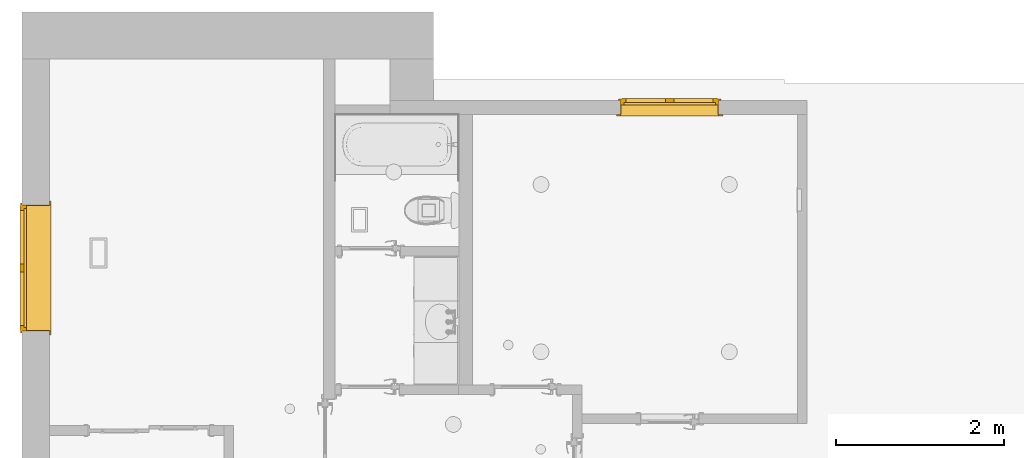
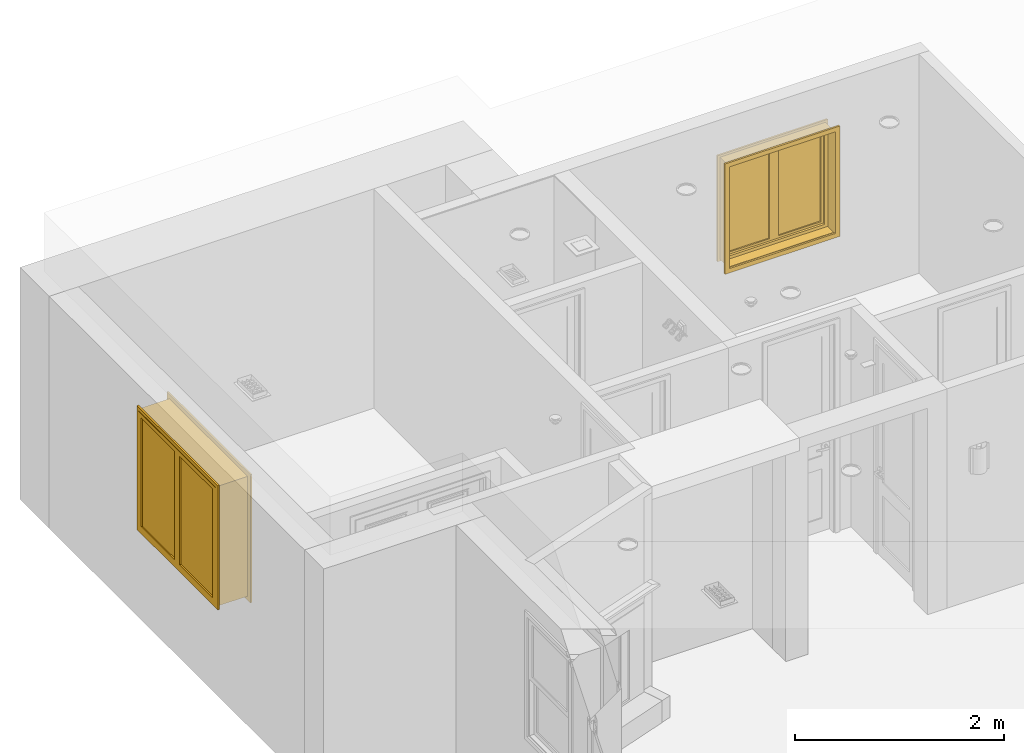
# One storey, part 13 of 24: 2 windows.
"""IFC2X3 building model written with IfcOpenShell, lengths in inches."""

from ifc_helpers import new_model, entity, si_unit, converted_unit, derived_unit, money_unit, direction, frame, origin_with_axes, place, context, subcontext, project, spatial, open_shell, faceted_brep, surface_model, type_object, element, save


model = new_model("IFC2X3")

# Units and contexts
model_context = context("Model", 3, precision=0.000393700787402, world=origin_with_axes(), true_north=direction((0.0, 1.0)))
body_context = subcontext(model_context, "Body", "Model", "MODEL_VIEW")
ifc_project = project(units=[converted_unit("LENGTHUNIT", "INCH", entity("IfcPositiveLengthMeasure", 0.0254), si_unit("LENGTHUNIT", "METRE"), dimensions=[1, 0, 0, 0, 0, 0, 0]), converted_unit("AREAUNIT", "SQUARE_FOOT", entity("IfcPositiveLengthMeasure", 0.09290304), si_unit("AREAUNIT", "SQUARE_METRE"), dimensions=[2, 0, 0, 0, 0, 0, 0]), si_unit("PLANEANGLEUNIT", "RADIAN"), si_unit("SOLIDANGLEUNIT", "STERADIAN"), money_unit("USD"), converted_unit("TIMEUNIT", "Year", entity("IfcTimeMeasure", 31556926.0), si_unit("TIMEUNIT", "SECOND"), dimensions=[0, 0, 1, 0, 0, 0, 0]), si_unit("MASSUNIT", "GRAM", prefix="KILO"), si_unit("THERMODYNAMICTEMPERATUREUNIT", "DEGREE_CELSIUS"), si_unit("LUMINOUSINTENSITYUNIT", "LUMEN"), si_unit("ENERGYUNIT", "JOULE", prefix="MEGA"), derived_unit("THERMALCONDUCTANCEUNIT", [(si_unit("POWERUNIT", "WATT"), 1), (si_unit("LENGTHUNIT", "METRE"), -1), (si_unit("THERMODYNAMICTEMPERATUREUNIT", "KELVIN"), -1)]), derived_unit("SPECIFICHEATCAPACITYUNIT", [(si_unit("ENERGYUNIT", "JOULE"), 1), (si_unit("MASSUNIT", "GRAM", prefix="KILO"), -1), (si_unit("THERMODYNAMICTEMPERATUREUNIT", "KELVIN"), -1)]), derived_unit("MASSDENSITYUNIT", [(si_unit("MASSUNIT", "GRAM", prefix="KILO"), 1), (si_unit("VOLUMEUNIT", "CUBIC_METRE"), -1)])], contexts=[model_context])

# Site, building, storey
site_placement = place(None, origin_with_axes())
site = spatial("IfcSite", under=ifc_project, at=site_placement, Name="Site", CompositionType="ELEMENT")
building_placement = place(site_placement, origin_with_axes())
building = spatial("IfcBuilding", under=site, at=building_placement, Name="Building", CompositionType="ELEMENT")
storey_placement = place(building_placement, origin_with_axes())
storey = spatial("IfcBuildingStorey", under=building, at=storey_placement, Name="First Floor", CompositionType="ELEMENT", Elevation=0.0)

# Windows
window_style = type_object("IfcWindowStyle", Name="Double Sash Window 25", ConstructionType="NOTDEFINED", OperationType="DOUBLE_PANEL_VERTICAL", ParameterTakesPrecedence=False, Sizeable=False)
window_1_placement = place(storey_placement, frame((232.930392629, 464.885718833, 35.8267716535), z_axis=(0.0, 0.0, 1.0), x_axis=(0.0, 1.0, 0.0)))
element("IfcWindow", 1, at=window_1_placement, inside=storey, type_object=window_style, Name="W-05", OverallHeight=55.1181, OverallWidth=59.0551, context=body_context, shape_type="SurfaceModel", body=[
    faceted_brep([(59.0551181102, 10.8267716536, 0.0), (59.0551181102, 0.0, 0.0), (0.0, 1.62844366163e-10, 0.0), (0.0, 10.8267716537, 0.0), (59.0551181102, 10.8267716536, 55.1181102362), (59.0551181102, 0.0, 55.1181102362), (0.0, 1.62844366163e-10, 55.1181102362), (58.8582677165, 0.0, 0.196850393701), (0.196850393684, 1.62564624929e-10, 0.196850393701), (0.196850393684, 1.62564624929e-10, 54.9212598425), (58.8582677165, 0.0, 54.9212598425), (0.0, 10.8267716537, 55.1181102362), (58.8582677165, 10.8267716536, 0.196850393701), (58.8582677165, 10.8267716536, 54.9212598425), (0.196850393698, 10.8267716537, 54.9212598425), (0.196850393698, 10.8267716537, 0.196850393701)], [[[0, 1, 2, 3]], [[4, 5, 1, 0]], [[1, 5, 6, 2], [7, 8, 9, 10]], [[3, 2, 6, 11]], [[0, 3, 11, 4], [12, 13, 14, 15]], [[11, 6, 5, 4]], [[15, 8, 7, 12]], [[14, 9, 8, 15]], [[13, 10, 9, 14]], [[12, 7, 10, 13]]]),
    faceted_brep([(61.0236220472, -0.787401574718, -1.96850393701), (59.0551181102, -0.787401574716, 0.0), (59.0551181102, 0.0, 0.0), (61.0236220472, 0.0, -1.96850393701), (61.0236220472, -0.787401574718, 57.0866141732), (59.0551181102, -0.787401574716, 55.1181102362), (59.0551181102, 0.0, 55.1181102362), (61.0236220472, 0.0, 57.0866141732)], [[[0, 1, 2, 3]], [[0, 4, 5, 1]], [[1, 5, 6, 2]], [[3, 2, 6, 7]], [[4, 0, 3, 7]], [[5, 4, 7, 6]]]),
    faceted_brep([(-1.96850393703, -0.787401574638, 57.0866141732), (0.0, -0.78740157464, 55.1181102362), (0.0, 1.62844366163e-10, 55.1181102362), (-1.96850393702, 1.6532706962e-10, 57.0866141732), (-1.96850393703, -0.787401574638, -1.96850393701), (0.0, -0.78740157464, 0.0), (0.0, 1.62844366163e-10, 0.0), (-1.96850393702, 1.6532706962e-10, -1.96850393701)], [[[0, 1, 2, 3]], [[0, 4, 5, 1]], [[1, 5, 6, 2]], [[3, 2, 6, 7]], [[4, 0, 3, 7]], [[5, 4, 7, 6]]]),
    faceted_brep([(-1.96850393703, -0.787401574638, -1.96850393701), (0.0, -0.78740157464, 0.0), (0.0, 1.62844366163e-10, 0.0), (-1.96850393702, 1.6532706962e-10, -1.96850393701), (61.0236220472, -0.787401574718, -1.96850393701), (59.0551181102, -0.787401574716, 0.0), (59.0551181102, 0.0, 0.0), (61.0236220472, 0.0, -1.96850393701)], [[[0, 1, 2, 3]], [[0, 4, 5, 1]], [[1, 5, 6, 2]], [[3, 2, 6, 7]], [[4, 0, 3, 7]], [[5, 4, 7, 6]]]),
    faceted_brep([(61.0236220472, -0.787401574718, 57.0866141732), (59.0551181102, -0.787401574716, 55.1181102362), (59.0551181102, 0.0, 55.1181102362), (61.0236220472, 0.0, 57.0866141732), (-1.96850393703, -0.787401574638, 57.0866141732), (0.0, -0.78740157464, 55.1181102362), (0.0, 1.62844366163e-10, 55.1181102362), (-1.96850393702, 1.6532706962e-10, 57.0866141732)], [[[0, 1, 2, 3]], [[0, 4, 5, 1]], [[1, 5, 6, 2]], [[3, 2, 6, 7]], [[4, 0, 3, 7]], [[5, 4, 7, 6]]]),
    faceted_brep([(60.0393700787, 13.5826771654, -0.984251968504), (60.0393700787, 12.7952755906, -0.984251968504), (58.0708661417, 12.7952755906, 0.984251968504), (58.0708661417, 13.5826771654, 0.984251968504), (60.0393700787, 13.5826771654, 56.1023622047), (60.0393700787, 12.7952755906, 56.1023622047), (58.0708661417, 12.7952755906, 54.1338582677), (58.0708661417, 13.5826771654, 54.1338582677)], [[[0, 1, 2, 3]], [[4, 5, 1, 0]], [[1, 5, 6, 2]], [[3, 2, 6, 7]], [[0, 3, 7, 4]], [[7, 6, 5, 4]]]),
    faceted_brep([(-0.984251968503, 13.5826771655, 56.1023622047), (-0.984251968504, 12.7952755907, 56.1023622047), (0.984251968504, 12.7952755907, 54.1338582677), (0.984251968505, 13.5826771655, 54.1338582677), (-0.984251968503, 13.5826771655, -0.984251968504), (-0.984251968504, 12.7952755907, -0.984251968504), (0.984251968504, 12.7952755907, 0.984251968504), (0.984251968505, 13.5826771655, 0.984251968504)], [[[0, 1, 2, 3]], [[4, 5, 1, 0]], [[1, 5, 6, 2]], [[3, 2, 6, 7]], [[0, 3, 7, 4]], [[7, 6, 5, 4]]]),
    faceted_brep([(-0.984251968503, 13.5826771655, -0.984251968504), (-0.984251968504, 12.7952755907, -0.984251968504), (0.984251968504, 12.7952755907, 0.984251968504), (0.984251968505, 13.5826771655, 0.984251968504), (60.0393700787, 13.5826771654, -0.984251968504), (60.0393700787, 12.7952755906, -0.984251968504), (58.0708661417, 12.7952755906, 0.984251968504), (58.0708661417, 13.5826771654, 0.984251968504)], [[[0, 1, 2, 3]], [[4, 5, 1, 0]], [[1, 5, 6, 2]], [[3, 2, 6, 7]], [[0, 3, 7, 4]], [[7, 6, 5, 4]]]),
    faceted_brep([(60.0393700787, 13.5826771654, 56.1023622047), (60.0393700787, 12.7952755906, 56.1023622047), (58.0708661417, 12.7952755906, 54.1338582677), (58.0708661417, 13.5826771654, 54.1338582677), (-0.984251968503, 13.5826771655, 56.1023622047), (-0.984251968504, 12.7952755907, 56.1023622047), (0.984251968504, 12.7952755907, 54.1338582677), (0.984251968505, 13.5826771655, 54.1338582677)], [[[0, 1, 2, 3]], [[4, 5, 1, 0]], [[1, 5, 6, 2]], [[3, 2, 6, 7]], [[0, 3, 7, 4]], [[7, 6, 5, 4]]]),
    faceted_brep([(58.4645669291, 12.7952755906, 53.5433070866), (58.4645669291, 11.8110236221, 53.5433070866), (57.4803149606, 11.8110236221, 53.5433070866), (57.4803149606, 10.8267716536, 53.5433070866), (59.0551181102, 10.8267716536, 53.5433070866), (59.0551181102, 12.7952755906, 53.5433070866), (58.4645669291, 12.7952755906, 1.57480314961), (58.4645669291, 11.8110236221, 1.57480314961), (57.4803149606, 11.8110236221, 1.57480314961), (57.4803149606, 10.8267716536, 1.57480314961), (59.0551181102, 10.8267716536, 1.57480314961), (59.0551181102, 12.7952755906, 1.57480314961)], [[[0, 1, 2, 3, 4, 5]], [[1, 0, 6, 7]], [[8, 2, 1, 7]], [[2, 8, 9, 3]], [[4, 3, 9, 10]], [[5, 4, 10, 11]], [[6, 0, 5, 11]], [[7, 6, 11, 10, 9, 8]]]),
    faceted_brep([(1.57480314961, 11.8110236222, 53.5433070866), (0.590551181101, 11.8110236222, 53.5433070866), (0.590551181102, 12.7952755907, 53.5433070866), (0.0, 12.7952755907, 53.5433070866), (0.0, 10.8267716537, 53.5433070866), (1.5748031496, 10.8267716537, 53.5433070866), (1.57480314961, 11.8110236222, 1.57480314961), (0.590551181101, 11.8110236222, 1.57480314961), (0.590551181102, 12.7952755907, 1.57480314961), (0.0, 12.7952755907, 1.57480314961), (0.0, 10.8267716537, 1.57480314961), (1.5748031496, 10.8267716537, 1.57480314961)], [[[0, 1, 2, 3, 4, 5]], [[1, 0, 6, 7]], [[8, 2, 1, 7]], [[2, 8, 9, 3]], [[9, 10, 4, 3]], [[10, 11, 5, 4]], [[6, 0, 5, 11]], [[7, 6, 11, 10, 9, 8]]]),
    faceted_brep([(1.57480314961, 11.8110236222, 1.57480314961), (0.590551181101, 11.8110236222, 1.57480314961), (0.590551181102, 12.7952755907, 1.57480314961), (0.0, 12.7952755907, 1.57480314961), (0.0, 10.8267716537, 1.57480314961), (1.5748031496, 10.8267716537, 1.57480314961), (57.4803149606, 11.8110236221, 1.57480314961), (58.4645669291, 11.8110236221, 1.57480314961), (58.4645669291, 11.8110236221, 0.590551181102), (0.590551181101, 11.8110236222, 0.590551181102), (0.590551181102, 12.7952755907, 0.590551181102), (58.4645669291, 12.7952755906, 0.590551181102), (58.4645669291, 12.7952755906, 1.57480314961), (59.0551181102, 12.7952755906, 1.57480314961), (59.0551181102, 12.7952755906, 0.0), (0.0, 12.7952755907, 0.0), (0.0, 10.8267716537, 0.0), (59.0551181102, 10.8267716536, 1.57480314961), (57.4803149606, 10.8267716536, 1.57480314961), (59.0551181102, 10.8267716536, 0.0)], [[[0, 1, 2, 3, 4, 5]], [[1, 0, 6, 7, 8, 9]], [[10, 2, 1, 9]], [[11, 12, 13, 14, 15, 3, 2, 10]], [[15, 16, 4, 3]], [[17, 18, 5, 4, 16, 19]], [[6, 0, 5, 18]], [[7, 6, 18, 17, 13, 12]], [[7, 12, 11, 8]], [[11, 10, 9, 8]], [[13, 17, 19, 14]], [[14, 19, 16, 15]]]),
    faceted_brep([(58.4645669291, 12.7952755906, 53.5433070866), (58.4645669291, 12.7952755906, 54.5275590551), (0.590551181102, 12.7952755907, 54.5275590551), (0.590551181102, 12.7952755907, 53.5433070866), (0.0, 12.7952755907, 53.5433070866), (0.0, 12.7952755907, 55.1181102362), (59.0551181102, 12.7952755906, 55.1181102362), (59.0551181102, 12.7952755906, 53.5433070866), (58.4645669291, 11.8110236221, 53.5433070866), (58.4645669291, 11.8110236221, 54.5275590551), (0.590551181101, 11.8110236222, 54.5275590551), (0.590551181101, 11.8110236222, 53.5433070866), (1.57480314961, 11.8110236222, 53.5433070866), (1.5748031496, 10.8267716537, 53.5433070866), (0.0, 10.8267716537, 53.5433070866), (0.0, 10.8267716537, 55.1181102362), (59.0551181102, 10.8267716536, 55.1181102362), (59.0551181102, 10.8267716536, 53.5433070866), (57.4803149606, 10.8267716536, 53.5433070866), (57.4803149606, 11.8110236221, 53.5433070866)], [[[0, 1, 2, 3, 4, 5, 6, 7]], [[1, 0, 8, 9]], [[2, 1, 9, 10]], [[3, 2, 10, 11]], [[11, 12, 13, 14, 4, 3]], [[4, 14, 15, 5]], [[5, 15, 16, 6]], [[6, 16, 17, 7]], [[8, 0, 7, 17, 18, 19]], [[12, 11, 10, 9, 8, 19]], [[12, 19, 18, 13]], [[14, 13, 18, 17, 16, 15]]]),
    faceted_brep([(56.4960629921, 11.8110236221, 52.5590551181), (58.4645669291, 11.8110236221, 52.5590551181), (58.4645669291, 13.7795275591, 52.5590551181), (56.4960629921, 13.7795275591, 52.5590551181), (56.4960629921, 11.8110236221, 2.55905511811), (58.4645669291, 11.8110236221, 2.55905511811), (58.4645669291, 13.7795275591, 2.55905511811), (56.4960629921, 13.7795275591, 2.55905511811)], [[[0, 1, 2, 3]], [[0, 4, 5, 1]], [[1, 5, 6, 2]], [[3, 2, 6, 7]], [[4, 0, 3, 7]], [[5, 4, 7, 6]]]),
    faceted_brep([(31.4960629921, 11.8110236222, 2.55905511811), (29.5275590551, 11.8110236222, 2.55905511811), (29.5275590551, 13.7795275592, 2.55905511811), (31.4960629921, 13.7795275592, 2.55905511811), (31.4960629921, 11.8110236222, 52.5590551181), (29.5275590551, 11.8110236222, 52.5590551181), (29.5275590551, 13.7795275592, 52.5590551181), (31.4960629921, 13.7795275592, 52.5590551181)], [[[0, 1, 2, 3]], [[0, 4, 5, 1]], [[1, 5, 6, 2]], [[3, 2, 6, 7]], [[4, 0, 3, 7]], [[5, 4, 7, 6]]]),
    faceted_brep([(29.5275590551, 11.8110236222, 0.590551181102), (29.5275590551, 11.8110236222, 2.55905511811), (29.5275590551, 13.7795275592, 2.55905511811), (29.5275590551, 13.7795275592, 0.590551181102), (58.4645669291, 11.8110236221, 0.590551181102), (58.4645669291, 11.8110236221, 2.55905511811), (56.4960629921, 11.8110236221, 2.55905511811), (31.4960629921, 11.8110236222, 2.55905511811), (31.4960629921, 13.7795275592, 2.55905511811), (56.4960629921, 13.7795275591, 2.55905511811), (58.4645669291, 13.7795275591, 2.55905511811), (58.4645669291, 13.7795275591, 0.590551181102)], [[[0, 1, 2, 3]], [[0, 4, 5, 6, 7, 1]], [[1, 7, 8, 2]], [[3, 2, 8, 9, 10, 11]], [[4, 0, 3, 11]], [[5, 4, 11, 10]], [[6, 5, 10, 9]], [[7, 6, 9, 8]]]),
    faceted_brep([(58.4645669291, 11.8110236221, 54.5275590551), (58.4645669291, 11.8110236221, 52.5590551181), (58.4645669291, 13.7795275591, 52.5590551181), (58.4645669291, 13.7795275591, 54.5275590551), (29.5275590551, 11.8110236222, 54.5275590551), (29.5275590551, 11.8110236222, 52.5590551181), (31.4960629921, 11.8110236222, 52.5590551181), (56.4960629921, 11.8110236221, 52.5590551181), (56.4960629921, 13.7795275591, 52.5590551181), (31.4960629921, 13.7795275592, 52.5590551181), (29.5275590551, 13.7795275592, 52.5590551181), (29.5275590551, 13.7795275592, 54.5275590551)], [[[0, 1, 2, 3]], [[0, 4, 5, 6, 7, 1]], [[1, 7, 8, 2]], [[3, 2, 8, 9, 10, 11]], [[4, 0, 3, 11]], [[5, 4, 11, 10]], [[6, 5, 10, 9]], [[7, 6, 9, 8]]]),
    surface_model("IfcShellBasedSurfaceModel", [(56.4960629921, 12.4015748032, 2.55905511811), (56.4960629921, 12.4015748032, 52.5590551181), (31.4960629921, 12.4015748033, 52.5590551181), (31.4960629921, 12.4015748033, 2.55905511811)], [open_shell([[[0, 1, 2, 3]]])]),
    surface_model("IfcShellBasedSurfaceModel", [(56.4960629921, 13.188976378, 2.55905511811), (31.4960629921, 13.1889763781, 2.55905511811), (31.4960629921, 13.1889763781, 52.5590551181), (56.4960629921, 13.188976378, 52.5590551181)], [open_shell([[[0, 1, 2, 3]]])]),
    faceted_brep([(27.5590551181, 11.8110236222, 52.5590551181), (29.5275590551, 11.8110236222, 52.5590551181), (29.5275590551, 13.7795275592, 52.5590551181), (27.5590551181, 13.7795275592, 52.5590551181), (27.5590551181, 11.8110236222, 2.55905511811), (29.5275590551, 11.8110236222, 2.55905511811), (29.5275590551, 13.7795275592, 2.55905511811), (27.5590551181, 13.7795275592, 2.55905511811)], [[[0, 1, 2, 3]], [[0, 4, 5, 1]], [[1, 5, 6, 2]], [[3, 2, 6, 7]], [[4, 0, 3, 7]], [[5, 4, 7, 6]]]),
    faceted_brep([(2.55905511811, 11.8110236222, 2.55905511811), (0.590551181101, 11.8110236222, 2.55905511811), (0.590551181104, 13.7795275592, 2.55905511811), (2.55905511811, 13.7795275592, 2.55905511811), (2.55905511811, 11.8110236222, 52.5590551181), (0.590551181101, 11.8110236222, 52.5590551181), (0.590551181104, 13.7795275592, 52.5590551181), (2.55905511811, 13.7795275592, 52.5590551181)], [[[0, 1, 2, 3]], [[0, 4, 5, 1]], [[1, 5, 6, 2]], [[3, 2, 6, 7]], [[4, 0, 3, 7]], [[5, 4, 7, 6]]]),
    faceted_brep([(0.590551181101, 11.8110236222, 0.590551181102), (0.590551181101, 11.8110236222, 2.55905511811), (0.590551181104, 13.7795275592, 2.55905511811), (0.590551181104, 13.7795275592, 0.590551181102), (29.5275590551, 11.8110236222, 0.590551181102), (29.5275590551, 11.8110236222, 2.55905511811), (27.5590551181, 11.8110236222, 2.55905511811), (2.55905511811, 11.8110236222, 2.55905511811), (2.55905511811, 13.7795275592, 2.55905511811), (27.5590551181, 13.7795275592, 2.55905511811), (29.5275590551, 13.7795275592, 2.55905511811), (29.5275590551, 13.7795275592, 0.590551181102)], [[[0, 1, 2, 3]], [[0, 4, 5, 6, 7, 1]], [[1, 7, 8, 2]], [[3, 2, 8, 9, 10, 11]], [[4, 0, 3, 11]], [[5, 4, 11, 10]], [[6, 5, 10, 9]], [[7, 6, 9, 8]]]),
    faceted_brep([(29.5275590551, 11.8110236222, 54.5275590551), (29.5275590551, 11.8110236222, 52.5590551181), (29.5275590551, 13.7795275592, 52.5590551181), (29.5275590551, 13.7795275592, 54.5275590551), (0.590551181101, 11.8110236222, 54.5275590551), (0.590551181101, 11.8110236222, 52.5590551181), (2.55905511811, 11.8110236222, 52.5590551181), (27.5590551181, 11.8110236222, 52.5590551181), (27.5590551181, 13.7795275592, 52.5590551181), (2.55905511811, 13.7795275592, 52.5590551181), (0.590551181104, 13.7795275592, 52.5590551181), (0.590551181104, 13.7795275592, 54.5275590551)], [[[0, 1, 2, 3]], [[0, 4, 5, 6, 7, 1]], [[1, 7, 8, 2]], [[3, 2, 8, 9, 10, 11]], [[4, 0, 3, 11]], [[5, 4, 11, 10]], [[6, 5, 10, 9]], [[7, 6, 9, 8]]]),
    surface_model("IfcShellBasedSurfaceModel", [(27.5590551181, 12.4015748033, 2.55905511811), (27.5590551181, 12.4015748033, 52.5590551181), (2.55905511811, 12.4015748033, 52.5590551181), (2.55905511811, 12.4015748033, 2.55905511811)], [open_shell([[[0, 1, 2, 3]]])]),
    surface_model("IfcShellBasedSurfaceModel", [(27.5590551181, 13.1889763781, 2.55905511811), (2.55905511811, 13.1889763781, 2.55905511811), (2.55905511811, 13.1889763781, 52.5590551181), (27.5590551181, 13.1889763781, 52.5590551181)], [open_shell([[[0, 1, 2, 3]]])]),
])
window_2_placement = place(storey_placement, frame((500.958147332, 566.450656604, 31.6929133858), z_axis=(0.0, 0.0, 1.0), x_axis=(1.0, 0.0, 0.0)))
element("IfcWindow", 2, at=window_2_placement, inside=storey, type_object=window_style, Name="W-06", OverallHeight=46.8504, OverallWidth=46.063, context=body_context, shape_type="SurfaceModel", body=[
    faceted_brep([(46.062992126, 4.53149606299, 0.0), (46.062992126, 0.0, 0.0), (0.0, 0.0, 0.0), (0.0, 4.53149606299, 0.0), (46.062992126, 4.53149606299, 46.8503937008), (46.062992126, 0.0, 46.8503937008), (0.0, 0.0, 46.8503937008), (45.8661417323, 0.0, 0.196850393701), (0.196850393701, 0.0, 0.196850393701), (0.196850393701, 0.0, 46.6535433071), (45.8661417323, 0.0, 46.6535433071), (0.0, 4.53149606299, 46.8503937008), (45.8661417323, 4.53149606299, 0.196850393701), (45.8661417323, 4.53149606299, 46.6535433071), (0.196850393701, 4.53149606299, 46.6535433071), (0.196850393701, 4.53149606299, 0.196850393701)], [[[0, 1, 2, 3]], [[4, 5, 1, 0]], [[1, 5, 6, 2], [7, 8, 9, 10]], [[3, 2, 6, 11]], [[0, 3, 11, 4], [12, 13, 14, 15]], [[11, 6, 5, 4]], [[15, 8, 7, 12]], [[14, 9, 8, 15]], [[13, 10, 9, 14]], [[12, 7, 10, 13]]]),
    faceted_brep([(48.031496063, -0.787401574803, -1.96850393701), (46.062992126, -0.787401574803, 0.0), (46.062992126, 0.0, 0.0), (48.031496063, 0.0, -1.96850393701), (48.031496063, -0.787401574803, 48.8188976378), (46.062992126, -0.787401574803, 46.8503937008), (46.062992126, 0.0, 46.8503937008), (48.031496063, 0.0, 48.8188976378)], [[[0, 1, 2, 3]], [[0, 4, 5, 1]], [[1, 5, 6, 2]], [[3, 2, 6, 7]], [[4, 0, 3, 7]], [[5, 4, 7, 6]]]),
    faceted_brep([(-1.96850393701, -0.787401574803, 48.8188976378), (0.0, -0.787401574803, 46.8503937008), (0.0, 0.0, 46.8503937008), (-1.96850393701, 0.0, 48.8188976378), (-1.96850393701, -0.787401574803, -1.96850393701), (0.0, -0.787401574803, 0.0), (0.0, 0.0, 0.0), (-1.96850393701, 0.0, -1.96850393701)], [[[0, 1, 2, 3]], [[0, 4, 5, 1]], [[1, 5, 6, 2]], [[3, 2, 6, 7]], [[4, 0, 3, 7]], [[5, 4, 7, 6]]]),
    faceted_brep([(-1.96850393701, -0.787401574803, -1.96850393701), (0.0, -0.787401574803, 0.0), (0.0, 0.0, 0.0), (-1.96850393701, 0.0, -1.96850393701), (48.031496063, -0.787401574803, -1.96850393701), (46.062992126, -0.787401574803, 0.0), (46.062992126, 0.0, 0.0), (48.031496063, 0.0, -1.96850393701)], [[[0, 1, 2, 3]], [[0, 4, 5, 1]], [[1, 5, 6, 2]], [[3, 2, 6, 7]], [[4, 0, 3, 7]], [[5, 4, 7, 6]]]),
    faceted_brep([(48.031496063, -0.787401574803, 48.8188976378), (46.062992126, -0.787401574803, 46.8503937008), (46.062992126, 0.0, 46.8503937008), (48.031496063, 0.0, 48.8188976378), (-1.96850393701, -0.787401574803, 48.8188976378), (0.0, -0.787401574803, 46.8503937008), (0.0, 0.0, 46.8503937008), (-1.96850393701, 0.0, 48.8188976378)], [[[0, 1, 2, 3]], [[0, 4, 5, 1]], [[1, 5, 6, 2]], [[3, 2, 6, 7]], [[4, 0, 3, 7]], [[5, 4, 7, 6]]]),
    faceted_brep([(47.0472440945, 7.2874015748, -0.984251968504), (47.0472440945, 6.5, -0.984251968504), (45.0787401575, 6.5, 0.984251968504), (45.0787401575, 7.2874015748, 0.984251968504), (47.0472440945, 7.2874015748, 47.8346456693), (47.0472440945, 6.5, 47.8346456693), (45.0787401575, 6.5, 45.8661417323), (45.0787401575, 7.2874015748, 45.8661417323)], [[[0, 1, 2, 3]], [[4, 5, 1, 0]], [[1, 5, 6, 2]], [[3, 2, 6, 7]], [[0, 3, 7, 4]], [[7, 6, 5, 4]]]),
    faceted_brep([(-0.984251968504, 7.2874015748, 47.8346456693), (-0.984251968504, 6.5, 47.8346456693), (0.984251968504, 6.5, 45.8661417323), (0.984251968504, 7.2874015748, 45.8661417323), (-0.984251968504, 7.2874015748, -0.984251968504), (-0.984251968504, 6.5, -0.984251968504), (0.984251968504, 6.5, 0.984251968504), (0.984251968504, 7.2874015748, 0.984251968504)], [[[0, 1, 2, 3]], [[4, 5, 1, 0]], [[1, 5, 6, 2]], [[3, 2, 6, 7]], [[0, 3, 7, 4]], [[7, 6, 5, 4]]]),
    faceted_brep([(-0.984251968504, 7.2874015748, -0.984251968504), (-0.984251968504, 6.5, -0.984251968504), (0.984251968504, 6.5, 0.984251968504), (0.984251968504, 7.2874015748, 0.984251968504), (47.0472440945, 7.2874015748, -0.984251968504), (47.0472440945, 6.5, -0.984251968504), (45.0787401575, 6.5, 0.984251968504), (45.0787401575, 7.2874015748, 0.984251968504)], [[[0, 1, 2, 3]], [[4, 5, 1, 0]], [[1, 5, 6, 2]], [[3, 2, 6, 7]], [[0, 3, 7, 4]], [[7, 6, 5, 4]]]),
    faceted_brep([(47.0472440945, 7.2874015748, 47.8346456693), (47.0472440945, 6.5, 47.8346456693), (45.0787401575, 6.5, 45.8661417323), (45.0787401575, 7.2874015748, 45.8661417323), (-0.984251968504, 7.2874015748, 47.8346456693), (-0.984251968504, 6.5, 47.8346456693), (0.984251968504, 6.5, 45.8661417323), (0.984251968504, 7.2874015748, 45.8661417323)], [[[0, 1, 2, 3]], [[4, 5, 1, 0]], [[1, 5, 6, 2]], [[3, 2, 6, 7]], [[0, 3, 7, 4]], [[7, 6, 5, 4]]]),
    faceted_brep([(45.4724409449, 6.5, 45.2755905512), (45.4724409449, 5.5157480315, 45.2755905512), (44.4881889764, 5.5157480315, 45.2755905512), (44.4881889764, 4.53149606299, 45.2755905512), (46.062992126, 4.53149606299, 45.2755905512), (46.062992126, 6.5, 45.2755905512), (45.4724409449, 6.5, 1.57480314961), (45.4724409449, 5.5157480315, 1.57480314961), (44.4881889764, 5.5157480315, 1.57480314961), (44.4881889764, 4.53149606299, 1.57480314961), (46.062992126, 4.53149606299, 1.57480314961), (46.062992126, 6.5, 1.57480314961)], [[[0, 1, 2, 3, 4, 5]], [[1, 0, 6, 7]], [[8, 2, 1, 7]], [[2, 8, 9, 3]], [[4, 3, 9, 10]], [[5, 4, 10, 11]], [[6, 0, 5, 11]], [[7, 6, 11, 10, 9, 8]]]),
    faceted_brep([(1.57480314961, 5.5157480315, 45.2755905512), (0.590551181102, 5.5157480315, 45.2755905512), (0.590551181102, 6.5, 45.2755905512), (0.0, 6.5, 45.2755905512), (0.0, 4.53149606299, 45.2755905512), (1.57480314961, 4.53149606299, 45.2755905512), (1.57480314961, 5.5157480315, 1.57480314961), (0.590551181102, 5.5157480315, 1.57480314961), (0.590551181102, 6.5, 1.57480314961), (0.0, 6.5, 1.57480314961), (0.0, 4.53149606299, 1.57480314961), (1.57480314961, 4.53149606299, 1.57480314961)], [[[0, 1, 2, 3, 4, 5]], [[1, 0, 6, 7]], [[8, 2, 1, 7]], [[2, 8, 9, 3]], [[9, 10, 4, 3]], [[10, 11, 5, 4]], [[6, 0, 5, 11]], [[7, 6, 11, 10, 9, 8]]]),
    faceted_brep([(1.57480314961, 5.5157480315, 1.57480314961), (0.590551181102, 5.5157480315, 1.57480314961), (0.590551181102, 6.5, 1.57480314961), (0.0, 6.5, 1.57480314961), (0.0, 4.53149606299, 1.57480314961), (1.57480314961, 4.53149606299, 1.57480314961), (44.4881889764, 5.5157480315, 1.57480314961), (45.4724409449, 5.5157480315, 1.57480314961), (45.4724409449, 5.5157480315, 0.590551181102), (0.590551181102, 5.5157480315, 0.590551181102), (0.590551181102, 6.5, 0.590551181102), (45.4724409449, 6.5, 0.590551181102), (45.4724409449, 6.5, 1.57480314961), (46.062992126, 6.5, 1.57480314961), (46.062992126, 6.5, 0.0), (0.0, 6.5, 0.0), (0.0, 4.53149606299, 0.0), (46.062992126, 4.53149606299, 1.57480314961), (44.4881889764, 4.53149606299, 1.57480314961), (46.062992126, 4.53149606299, 0.0)], [[[0, 1, 2, 3, 4, 5]], [[1, 0, 6, 7, 8, 9]], [[10, 2, 1, 9]], [[11, 12, 13, 14, 15, 3, 2, 10]], [[15, 16, 4, 3]], [[17, 18, 5, 4, 16, 19]], [[6, 0, 5, 18]], [[7, 6, 18, 17, 13, 12]], [[7, 12, 11, 8]], [[11, 10, 9, 8]], [[13, 17, 19, 14]], [[14, 19, 16, 15]]]),
    faceted_brep([(45.4724409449, 6.5, 45.2755905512), (45.4724409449, 6.5, 46.2598425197), (0.590551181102, 6.5, 46.2598425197), (0.590551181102, 6.5, 45.2755905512), (0.0, 6.5, 45.2755905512), (0.0, 6.5, 46.8503937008), (46.062992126, 6.5, 46.8503937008), (46.062992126, 6.5, 45.2755905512), (45.4724409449, 5.5157480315, 45.2755905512), (45.4724409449, 5.5157480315, 46.2598425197), (0.590551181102, 5.5157480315, 46.2598425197), (0.590551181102, 5.5157480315, 45.2755905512), (1.57480314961, 5.5157480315, 45.2755905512), (1.57480314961, 4.53149606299, 45.2755905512), (0.0, 4.53149606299, 45.2755905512), (0.0, 4.53149606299, 46.8503937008), (46.062992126, 4.53149606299, 46.8503937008), (46.062992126, 4.53149606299, 45.2755905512), (44.4881889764, 4.53149606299, 45.2755905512), (44.4881889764, 5.5157480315, 45.2755905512)], [[[0, 1, 2, 3, 4, 5, 6, 7]], [[1, 0, 8, 9]], [[2, 1, 9, 10]], [[3, 2, 10, 11]], [[11, 12, 13, 14, 4, 3]], [[4, 14, 15, 5]], [[5, 15, 16, 6]], [[6, 16, 17, 7]], [[8, 0, 7, 17, 18, 19]], [[12, 11, 10, 9, 8, 19]], [[12, 19, 18, 13]], [[14, 13, 18, 17, 16, 15]]]),
    faceted_brep([(43.5039370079, 5.5157480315, 44.2913385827), (45.4724409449, 5.5157480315, 44.2913385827), (45.4724409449, 7.4842519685, 44.2913385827), (43.5039370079, 7.4842519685, 44.2913385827), (43.5039370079, 5.5157480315, 2.55905511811), (45.4724409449, 5.5157480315, 2.55905511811), (45.4724409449, 7.4842519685, 2.55905511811), (43.5039370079, 7.4842519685, 2.55905511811)], [[[0, 1, 2, 3]], [[0, 4, 5, 1]], [[1, 5, 6, 2]], [[3, 2, 6, 7]], [[4, 0, 3, 7]], [[5, 4, 7, 6]]]),
    faceted_brep([(25.0, 5.5157480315, 2.55905511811), (23.031496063, 5.5157480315, 2.55905511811), (23.031496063, 7.4842519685, 2.55905511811), (25.0, 7.4842519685, 2.55905511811), (25.0, 5.5157480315, 44.2913385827), (23.031496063, 5.5157480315, 44.2913385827), (23.031496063, 7.4842519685, 44.2913385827), (25.0, 7.4842519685, 44.2913385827)], [[[0, 1, 2, 3]], [[0, 4, 5, 1]], [[1, 5, 6, 2]], [[3, 2, 6, 7]], [[4, 0, 3, 7]], [[5, 4, 7, 6]]]),
    faceted_brep([(23.031496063, 5.5157480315, 0.590551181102), (23.031496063, 5.5157480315, 2.55905511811), (23.031496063, 7.4842519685, 2.55905511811), (23.031496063, 7.4842519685, 0.590551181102), (45.4724409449, 5.5157480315, 0.590551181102), (45.4724409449, 5.5157480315, 2.55905511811), (43.5039370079, 5.5157480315, 2.55905511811), (25.0, 5.5157480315, 2.55905511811), (25.0, 7.4842519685, 2.55905511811), (43.5039370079, 7.4842519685, 2.55905511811), (45.4724409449, 7.4842519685, 2.55905511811), (45.4724409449, 7.4842519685, 0.590551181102)], [[[0, 1, 2, 3]], [[0, 4, 5, 6, 7, 1]], [[1, 7, 8, 2]], [[3, 2, 8, 9, 10, 11]], [[4, 0, 3, 11]], [[5, 4, 11, 10]], [[6, 5, 10, 9]], [[7, 6, 9, 8]]]),
    faceted_brep([(45.4724409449, 5.5157480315, 46.2598425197), (45.4724409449, 5.5157480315, 44.2913385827), (45.4724409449, 7.4842519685, 44.2913385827), (45.4724409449, 7.4842519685, 46.2598425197), (23.031496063, 5.5157480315, 46.2598425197), (23.031496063, 5.5157480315, 44.2913385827), (25.0, 5.5157480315, 44.2913385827), (43.5039370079, 5.5157480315, 44.2913385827), (43.5039370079, 7.4842519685, 44.2913385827), (25.0, 7.4842519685, 44.2913385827), (23.031496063, 7.4842519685, 44.2913385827), (23.031496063, 7.4842519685, 46.2598425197)], [[[0, 1, 2, 3]], [[0, 4, 5, 6, 7, 1]], [[1, 7, 8, 2]], [[3, 2, 8, 9, 10, 11]], [[4, 0, 3, 11]], [[5, 4, 11, 10]], [[6, 5, 10, 9]], [[7, 6, 9, 8]]]),
    surface_model("IfcShellBasedSurfaceModel", [(43.5039370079, 6.1062992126, 2.55905511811), (43.5039370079, 6.1062992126, 44.2913385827), (25.0, 6.1062992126, 44.2913385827), (25.0, 6.1062992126, 2.55905511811)], [open_shell([[[0, 1, 2, 3]]])]),
    surface_model("IfcShellBasedSurfaceModel", [(43.5039370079, 6.8937007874, 2.55905511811), (25.0, 6.8937007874, 2.55905511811), (25.0, 6.8937007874, 44.2913385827), (43.5039370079, 6.8937007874, 44.2913385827)], [open_shell([[[0, 1, 2, 3]]])]),
    faceted_brep([(21.062992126, 5.5157480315, 44.2913385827), (23.031496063, 5.5157480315, 44.2913385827), (23.031496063, 7.4842519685, 44.2913385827), (21.062992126, 7.4842519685, 44.2913385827), (21.062992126, 5.5157480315, 2.55905511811), (23.031496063, 5.5157480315, 2.55905511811), (23.031496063, 7.4842519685, 2.55905511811), (21.062992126, 7.4842519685, 2.55905511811)], [[[0, 1, 2, 3]], [[0, 4, 5, 1]], [[1, 5, 6, 2]], [[3, 2, 6, 7]], [[4, 0, 3, 7]], [[5, 4, 7, 6]]]),
    faceted_brep([(2.55905511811, 5.5157480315, 2.55905511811), (0.590551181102, 5.5157480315, 2.55905511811), (0.590551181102, 7.4842519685, 2.55905511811), (2.55905511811, 7.4842519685, 2.55905511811), (2.55905511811, 5.5157480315, 44.2913385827), (0.590551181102, 5.5157480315, 44.2913385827), (0.590551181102, 7.4842519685, 44.2913385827), (2.55905511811, 7.4842519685, 44.2913385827)], [[[0, 1, 2, 3]], [[0, 4, 5, 1]], [[1, 5, 6, 2]], [[3, 2, 6, 7]], [[4, 0, 3, 7]], [[5, 4, 7, 6]]]),
    faceted_brep([(0.590551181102, 5.5157480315, 0.590551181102), (0.590551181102, 5.5157480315, 2.55905511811), (0.590551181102, 7.4842519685, 2.55905511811), (0.590551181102, 7.4842519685, 0.590551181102), (23.031496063, 5.5157480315, 0.590551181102), (23.031496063, 5.5157480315, 2.55905511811), (21.062992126, 5.5157480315, 2.55905511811), (2.55905511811, 5.5157480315, 2.55905511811), (2.55905511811, 7.4842519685, 2.55905511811), (21.062992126, 7.4842519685, 2.55905511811), (23.031496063, 7.4842519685, 2.55905511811), (23.031496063, 7.4842519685, 0.590551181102)], [[[0, 1, 2, 3]], [[0, 4, 5, 6, 7, 1]], [[1, 7, 8, 2]], [[3, 2, 8, 9, 10, 11]], [[4, 0, 3, 11]], [[5, 4, 11, 10]], [[6, 5, 10, 9]], [[7, 6, 9, 8]]]),
    faceted_brep([(23.031496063, 5.5157480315, 46.2598425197), (23.031496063, 5.5157480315, 44.2913385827), (23.031496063, 7.4842519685, 44.2913385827), (23.031496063, 7.4842519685, 46.2598425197), (0.590551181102, 5.5157480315, 46.2598425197), (0.590551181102, 5.5157480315, 44.2913385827), (2.55905511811, 5.5157480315, 44.2913385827), (21.062992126, 5.5157480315, 44.2913385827), (21.062992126, 7.4842519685, 44.2913385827), (2.55905511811, 7.4842519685, 44.2913385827), (0.590551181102, 7.4842519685, 44.2913385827), (0.590551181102, 7.4842519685, 46.2598425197)], [[[0, 1, 2, 3]], [[0, 4, 5, 6, 7, 1]], [[1, 7, 8, 2]], [[3, 2, 8, 9, 10, 11]], [[4, 0, 3, 11]], [[5, 4, 11, 10]], [[6, 5, 10, 9]], [[7, 6, 9, 8]]]),
    surface_model("IfcShellBasedSurfaceModel", [(21.062992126, 6.1062992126, 2.55905511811), (21.062992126, 6.1062992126, 44.2913385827), (2.55905511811, 6.1062992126, 44.2913385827), (2.55905511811, 6.1062992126, 2.55905511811)], [open_shell([[[0, 1, 2, 3]]])]),
    surface_model("IfcShellBasedSurfaceModel", [(21.062992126, 6.8937007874, 2.55905511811), (2.55905511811, 6.8937007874, 2.55905511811), (2.55905511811, 6.8937007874, 44.2913385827), (21.062992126, 6.8937007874, 44.2913385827)], [open_shell([[[0, 1, 2, 3]]])]),
])

save(model, "model.ifc")
